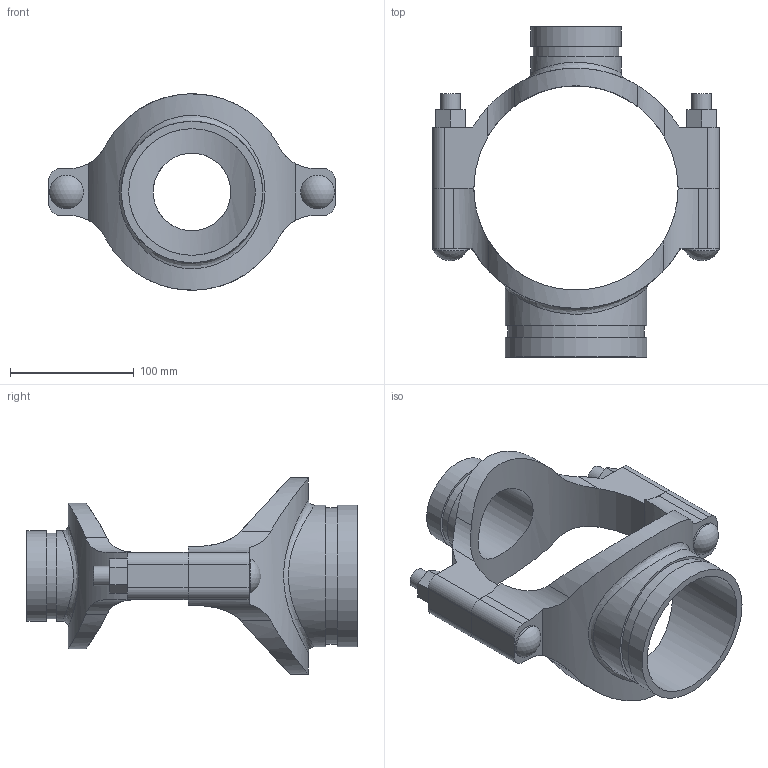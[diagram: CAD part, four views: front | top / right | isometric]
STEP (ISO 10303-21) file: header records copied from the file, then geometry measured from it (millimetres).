
FILE_DESCRIPTION(/* description */ ('VIC MECH-T BRANCH OUTLET CROSS STYLE 920N (GRVD)','CAx-IF Rec.Pracs.---Representation and Presentation of Product Manufacturing Information (PMI)---4.0---2014-10-13'),/* implementation_level */ '2;1');
FILE_NAME(/* name */ 'C:\Users\Vjadhav\AppData\Roaming\Autodesk\ApplicationPlugins\Back Up\Victaulic_IPS_Mechanical-Cross Outlet_Style 920N (OGS)\Victaulic_IPS_Mechanical-Cross Outlet_06.0 (165.1)x02.5x04.0 (150x65x100).stp',/* time_stamp */ '2020-08-06T19:45:38+05:00',/* author */ ('Vjadhav'),/* organization */ ('Victaulic'),/* preprocessor_version */ 'ST-DEVELOPER v17.2',/* originating_system */ 'Autodesk Inventor 2019',/* authorisation */ '');
FILE_SCHEMA (('AP242_MANAGED_MODEL_BASED_3D_ENGINEERING_MIM_LF { 1 0 10303 442 1 1 4 }'));
Length unit declared in the file: inch
Products named in the file (3): 920NG-06.0 (165.1)x02.5x04.0; 920G-06.0 (165.1)x02.5; 920G-06.0 (165.1)x04.0
Assembly tree (2 placements, depth 2):
  920NG-06.0 (165.1)x02.5x04.0
    920G-06.0 (165.1)x02.5
    920G-06.0 (165.1)x04.0
Bounding box: 231.9 x 266.95 x 158.65 mm (x, y, z)
Volume: 774528.9 mm3; surface area: 186699 mm2
Topology: 2 solids, 2 shells, 104 faces, 262 edges, 178 vertices
Faces by surface type: plane 54, cylinder 46, sphere 2, bspline 2
Full cylindrical faces by diameter (mm): 15.875 x4, 27.381 x2, 62.713 x1, 69.088 x1, 73.025 x2, 102.394 x1, 110.084 x1, 114.3 x2
Entity records: 4278 total; most frequent: CARTESIAN_POINT 1505, DIRECTION 532, ORIENTED_EDGE 524, EDGE_CURVE 262, AXIS2_PLACEMENT_3D 193, VERTEX_POINT 178, LINE 146, VECTOR 146
